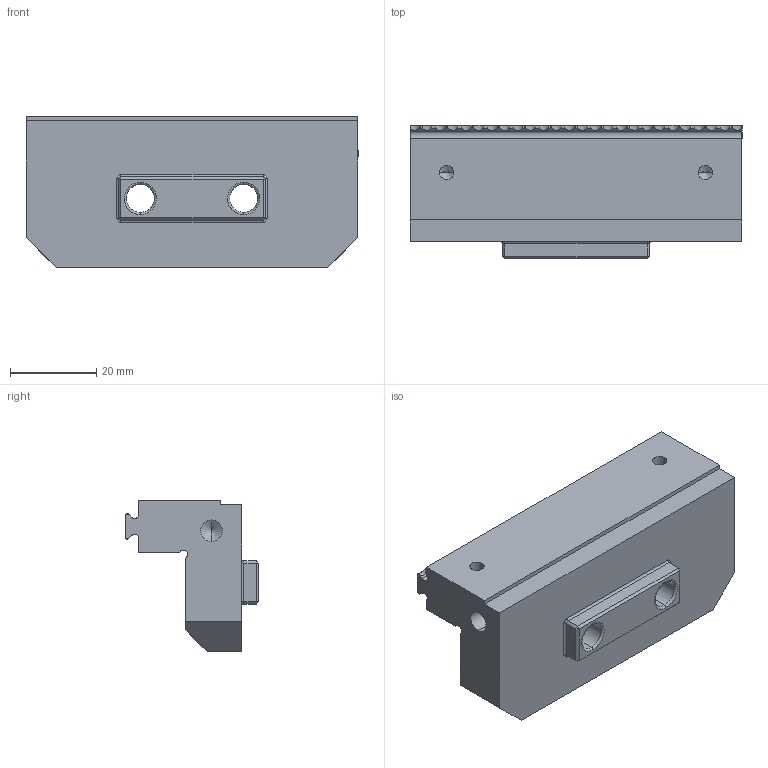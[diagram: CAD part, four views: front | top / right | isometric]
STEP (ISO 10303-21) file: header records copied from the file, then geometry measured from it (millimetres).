
FILE_DESCRIPTION (( 'STEP AP214' ), '1' );
FILE_NAME ('HMVJ-3HS [05-0227 ref].step', '2023-05-02T20:44:55', ( '' ), ( '' ), 'SwSTEP 2.0', 'SolidWorks 2022', '' );
FILE_SCHEMA (( 'AUTOMOTIVE_DESIGN' ));
Length unit declared in the file: millimetre
Products named in the file (1): HMVJ-3HS [05-0227 ref]
Bounding box: 77 x 31 x 35 mm (x, y, z)
Volume: 42768.3 mm3; surface area: 12500.9 mm2
Topology: 1 solids, 1 shells, 492 faces, 1347 edges, 880 vertices
Faces by surface type: plane 262, cylinder 111, bspline 107, cone 12
Entity records: 22917 total; most frequent: CARTESIAN_POINT 11363, ORIENTED_EDGE 2670, DIRECTION 1855, EDGE_CURVE 1335, VERTEX_POINT 880, VECTOR 787, LINE 787, AXIS2_PLACEMENT_3D 534
